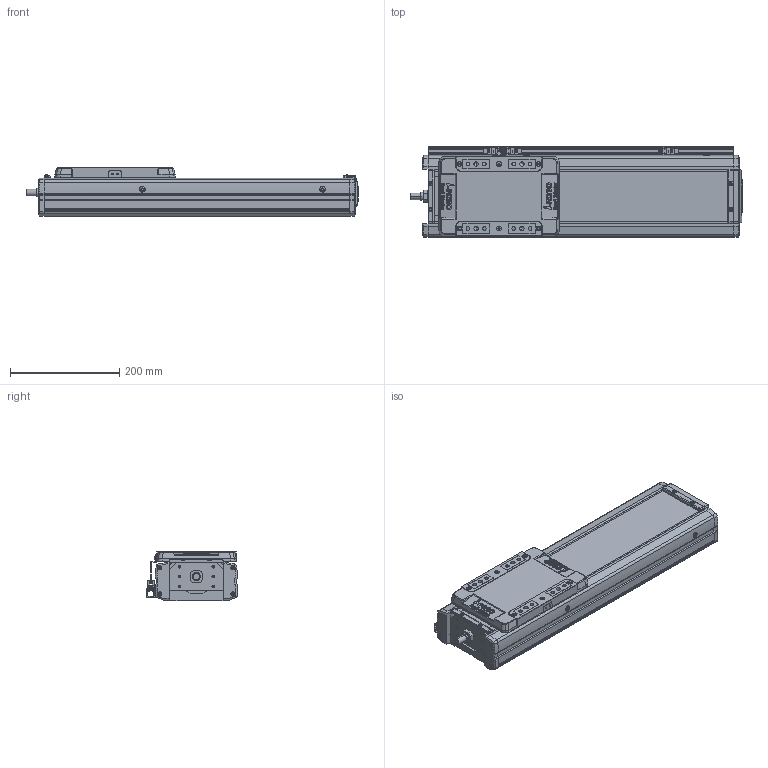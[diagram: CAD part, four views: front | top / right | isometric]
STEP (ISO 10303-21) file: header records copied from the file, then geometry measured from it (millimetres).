
FILE_DESCRIPTION(('STEP AP214'),'1');
FILE_NAME('Z:/Web/3D/SAN150/2013.04 (STP.)/SAN150ㅁㅁ-300+3SL.stp','2013-05-08T02:04:49',(' '),(' '),'Spatial InterOp 3D',' ',' ');
FILE_SCHEMA(('automotive_design'));
Length unit declared in the file: millimetre
Products named in the file (53): SLBL-SAN150; SLCV-SAN150; FHCS M4.0 x 8.0; BHCS M4.0 x 10.0; SFX-SAN150; RRCV-SAN150; FRBL-SAN150; Spacer; RN15; FRCV-SAN150; Screw 20; BASE-SAN150-000L ; SUS COVER; 스크루 : Round - M5.0 x 6.0; M3.0 x 6.0; SRL-16x17-360L; SGD-SAN150; EE-SX674; SBK-SX674-352; 스크루 : Round - M3.0 x 6.0
Bounding box: 608 x 166 x 90 mm (x, y, z)
Volume: 3728849 mm3; surface area: 763732.4 mm2
Topology: 53 solids, 53 shells, 2478 faces, 6395 edges, 4120 vertices
Faces by surface type: plane 1340, cylinder 795, cone 242, sphere 68, bspline 21, torus 12
Entity records: 98127 total; most frequent: CARTESIAN_POINT 15456, DIRECTION 13462, ORIENTED_EDGE 12598, EDGE_CURVE 6299, AXIS2_PLACEMENT_3D 4729, VERTEX_POINT 4120, LINE 4004, VECTOR 4004
